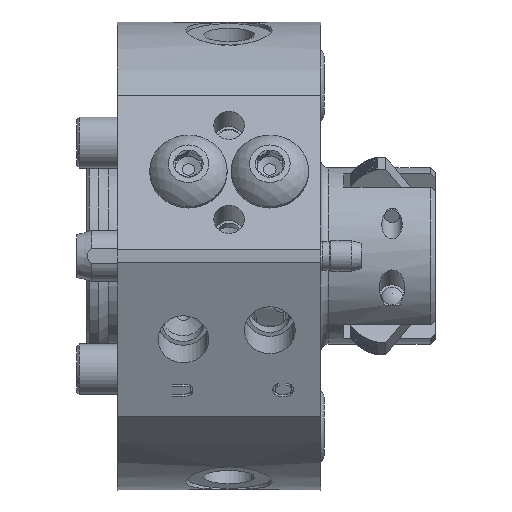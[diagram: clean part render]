
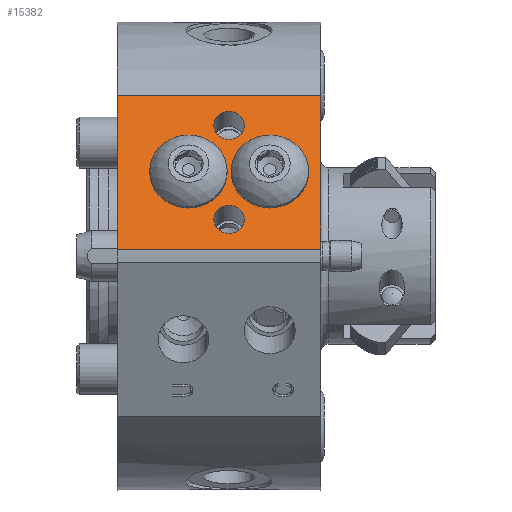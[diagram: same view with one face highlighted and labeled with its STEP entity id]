
A CAD part, left-side view. The second image highlights one B-rep face of the part: STEP entity #15382.
In plain terms, the highlighted planar face has unit normal (-0.924, 0, 0.383).
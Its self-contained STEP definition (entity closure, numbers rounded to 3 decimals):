
#295 = CARTESIAN_POINT ( 'NONE',  ( -16.737, 20., 15.776 ) ) ;
#654 = EDGE_CURVE ( 'NONE', #7460, #4126, #10465, .T. ) ;
#707 = CARTESIAN_POINT ( 'NONE',  ( -21.203, 9., 4.994 ) ) ;
#723 = EDGE_CURVE ( 'NONE', #11042, #11042, #12827, .T. ) ;
#887 = DIRECTION ( 'NONE',  ( 0.383, 0., 0.924 ) ) ;
#1033 = EDGE_LOOP ( 'NONE', ( #7032 ) ) ;
#1170 = EDGE_LOOP ( 'NONE', ( #6809 ) ) ;
#1310 = VERTEX_POINT ( 'NONE', #6268 ) ;
#1507 = CARTESIAN_POINT ( 'NONE',  ( -19.863, 13., 8.228 ) ) ;
#1768 = DIRECTION ( 'NONE',  ( 0., -1., 0. ) ) ;
#1991 = EDGE_LOOP ( 'NONE', ( #9906, #2731, #13255, #4209 ) ) ;
#2164 = FACE_BOUND ( 'NONE', #2706, .T. ) ;
#2706 = EDGE_LOOP ( 'NONE', ( #11233 ) ) ;
#2731 = ORIENTED_EDGE ( 'NONE', *, *, #13913, .F. ) ;
#2787 = CARTESIAN_POINT ( 'NONE',  ( -16.737, 20., 15.776 ) ) ;
#3039 = DIRECTION ( 'NONE',  ( 0.383, 0., 0.924 ) ) ;
#3211 = CARTESIAN_POINT ( 'NONE',  ( -17.95, 9., 12.847 ) ) ;
#3386 = DIRECTION ( 'NONE',  ( -0.383, 0., -0.924 ) ) ;
#3391 = CARTESIAN_POINT ( 'NONE',  ( -22.99, 20., 0.68 ) ) ;
#4126 = VERTEX_POINT ( 'NONE', #7742 ) ;
#4131 = EDGE_CURVE ( 'NONE', #16167, #7460, #9108, .T. ) ;
#4209 = ORIENTED_EDGE ( 'NONE', *, *, #654, .T. ) ;
#4512 = CARTESIAN_POINT ( 'NONE',  ( -16.737, 0., 15.776 ) ) ;
#4526 = AXIS2_PLACEMENT_3D ( 'NONE', #11118, #12395, #887 ) ;
#4552 = PLANE ( 'NONE',  #4526 ) ;
#4686 = AXIS2_PLACEMENT_3D ( 'NONE', #11179, #4692, #8399 ) ;
#4692 = DIRECTION ( 'NONE',  ( -0.924, 0., 0.383 ) ) ;
#4855 = EDGE_CURVE ( 'NONE', #1310, #1310, #5395, .T. ) ;
#4915 = DIRECTION ( 'NONE',  ( -0.924, 0., 0.383 ) ) ;
#5342 = CARTESIAN_POINT ( 'NONE',  ( -16.737, 20., 15.776 ) ) ;
#5395 = CIRCLE ( 'NONE', #14094, 3.175 ) ;
#5493 = DIRECTION ( 'NONE',  ( -0.383, 0., -0.924 ) ) ;
#5592 = CIRCLE ( 'NONE', #7788, 1.5 ) ;
#5753 = FACE_BOUND ( 'NONE', #1033, .T. ) ;
#5929 = FACE_BOUND ( 'NONE', #14940, .T. ) ;
#6268 = CARTESIAN_POINT ( 'NONE',  ( -18.648, 5., 11.161 ) ) ;
#6308 = AXIS2_PLACEMENT_3D ( 'NONE', #1507, #6720, #11913 ) ;
#6625 = FACE_BOUND ( 'NONE', #1170, .T. ) ;
#6720 = DIRECTION ( 'NONE',  ( -0.924, 0., 0.383 ) ) ;
#6809 = ORIENTED_EDGE ( 'NONE', *, *, #16325, .F. ) ;
#6904 = DIRECTION ( 'NONE',  ( -0.924, 0., 0.383 ) ) ;
#6933 = VECTOR ( 'NONE', #1768, 1000. ) ;
#7032 = ORIENTED_EDGE ( 'NONE', *, *, #723, .F. ) ;
#7033 = VERTEX_POINT ( 'NONE', #707 ) ;
#7276 = EDGE_CURVE ( 'NONE', #7033, #7033, #16112, .T. ) ;
#7460 = VERTEX_POINT ( 'NONE', #3391 ) ;
#7742 = CARTESIAN_POINT ( 'NONE',  ( -22.99, 0., 0.68 ) ) ;
#7788 = AXIS2_PLACEMENT_3D ( 'NONE', #3211, #6904, #3039 ) ;
#8399 = DIRECTION ( 'NONE',  ( 0.383, 0., 0.924 ) ) ;
#8669 = CARTESIAN_POINT ( 'NONE',  ( -18.648, 13., 11.161 ) ) ;
#8761 = EDGE_CURVE ( 'NONE', #14731, #4126, #16187, .T. ) ;
#9108 = LINE ( 'NONE', #295, #14662 ) ;
#9878 = VECTOR ( 'NONE', #3386, 1000. ) ;
#9906 = ORIENTED_EDGE ( 'NONE', *, *, #8761, .F. ) ;
#10465 = LINE ( 'NONE', #13012, #11467 ) ;
#10806 = LINE ( 'NONE', #5342, #6933 ) ;
#11040 = FACE_OUTER_BOUND ( 'NONE', #1991, .T. ) ;
#11042 = VERTEX_POINT ( 'NONE', #8669 ) ;
#11118 = CARTESIAN_POINT ( 'NONE',  ( -16.737, 20., 15.776 ) ) ;
#11179 = CARTESIAN_POINT ( 'NONE',  ( -21.777, 9., 3.608 ) ) ;
#11233 = ORIENTED_EDGE ( 'NONE', *, *, #7276, .F. ) ;
#11467 = VECTOR ( 'NONE', #16585, 1000. ) ;
#11913 = DIRECTION ( 'NONE',  ( 0.383, 0., 0.924 ) ) ;
#12395 = DIRECTION ( 'NONE',  ( -0.924, 0., 0.383 ) ) ;
#12827 = CIRCLE ( 'NONE', #6308, 3.175 ) ;
#13012 = CARTESIAN_POINT ( 'NONE',  ( -22.99, 20., 0.68 ) ) ;
#13255 = ORIENTED_EDGE ( 'NONE', *, *, #4131, .T. ) ;
#13865 = DIRECTION ( 'NONE',  ( 0.383, 0., 0.924 ) ) ;
#13913 = EDGE_CURVE ( 'NONE', #16167, #14731, #10806, .T. ) ;
#14094 = AXIS2_PLACEMENT_3D ( 'NONE', #15402, #4915, #13865 ) ;
#14457 = ORIENTED_EDGE ( 'NONE', *, *, #4855, .F. ) ;
#14662 = VECTOR ( 'NONE', #5493, 1000. ) ;
#14731 = VERTEX_POINT ( 'NONE', #15086 ) ;
#14940 = EDGE_LOOP ( 'NONE', ( #14457 ) ) ;
#15086 = CARTESIAN_POINT ( 'NONE',  ( -16.737, 0., 15.776 ) ) ;
#15382 = ADVANCED_FACE ( 'NONE', ( #6625, #2164, #5929, #5753, #11040 ), #4552, .T. ) ;
#15402 = CARTESIAN_POINT ( 'NONE',  ( -19.863, 5., 8.228 ) ) ;
#16112 = CIRCLE ( 'NONE', #4686, 1.5 ) ;
#16167 = VERTEX_POINT ( 'NONE', #2787 ) ;
#16187 = LINE ( 'NONE', #4512, #9878 ) ;
#16325 = EDGE_CURVE ( 'NONE', #16444, #16444, #5592, .T. ) ;
#16444 = VERTEX_POINT ( 'NONE', #16529 ) ;
#16529 = CARTESIAN_POINT ( 'NONE',  ( -17.376, 9., 14.233 ) ) ;
#16585 = DIRECTION ( 'NONE',  ( 0., -1., 0. ) ) ;
